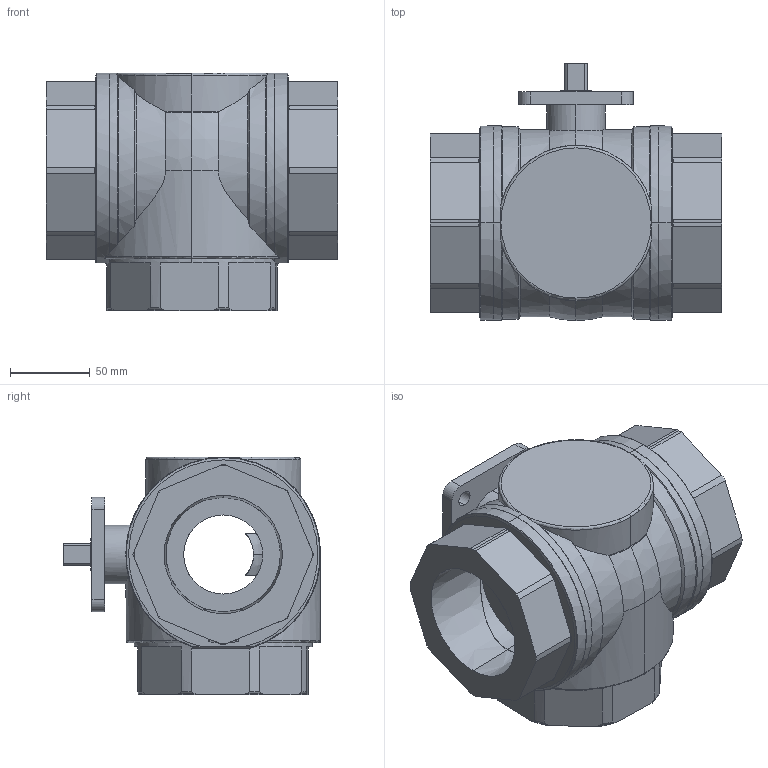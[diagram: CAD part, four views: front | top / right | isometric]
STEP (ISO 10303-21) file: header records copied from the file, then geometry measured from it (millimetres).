
FILE_DESCRIPTION (( 'STEP AP203' ), '1' );
FILE_NAME ('b2s-20tt-tl.STEP', '2021-04-14T18:48:43', ( '' ), ( '' ), 'SwSTEP 2.0', 'SolidWorks 2017', '' );
FILE_SCHEMA (( 'CONFIG_CONTROL_DESIGN' ));
Length unit declared in the file: inch
Products named in the file (2): b2s-20tt-tl
Bounding box: 182.42 x 161.04 x 148.84 mm (x, y, z)
Volume: 1531690.4 mm3; surface area: 167727.1 mm2
Topology: 2 solids, 2 shells, 283 faces, 786 edges, 514 vertices
Faces by surface type: cylinder 125, plane 82, cone 47, torus 17, sphere 12
Entity records: 10457 total; most frequent: CARTESIAN_POINT 3132, ORIENTED_EDGE 1568, DIRECTION 1468, EDGE_CURVE 784, AXIS2_PLACEMENT_3D 578, VERTEX_POINT 514, LINE 312, VECTOR 312
